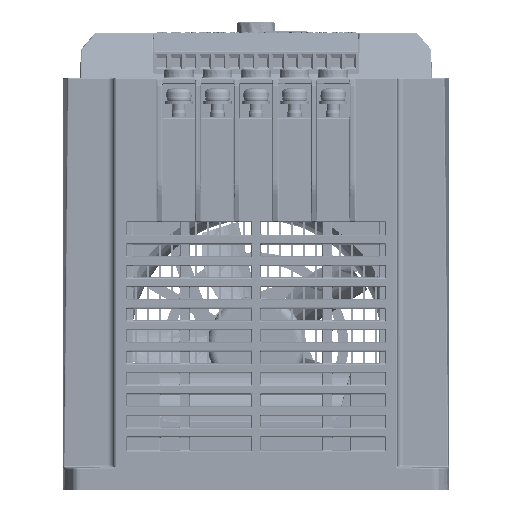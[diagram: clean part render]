
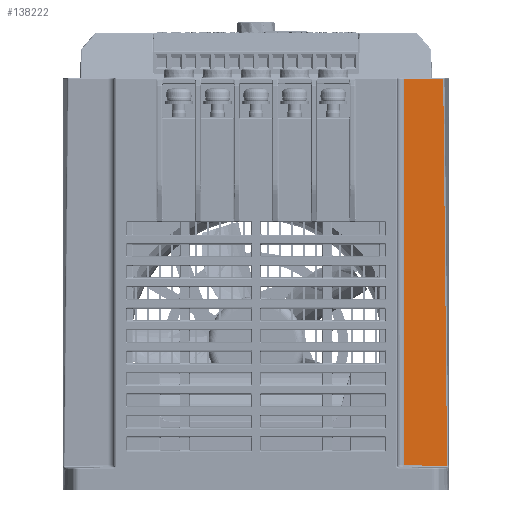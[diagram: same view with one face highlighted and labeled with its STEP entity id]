
A CAD part, front view. The second image highlights one B-rep face of the part: STEP entity #138222.
In plain terms, the highlighted planar face has unit normal (0.018, -1, 0).
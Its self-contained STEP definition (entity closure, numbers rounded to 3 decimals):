
#138222=ADVANCED_FACE('',(#226439),#226441,.T.);
#226439=FACE_BOUND('',#226440,.T.);
#226440=EDGE_LOOP('',(#291147,#291148,#291149,#291150));
#226441=PLANE('',#226442);
#226442=AXIS2_PLACEMENT_3D('',#226443,#226444,#226445);
#226443=CARTESIAN_POINT('',(246.145,110.811,-153.274));
#226444=DIRECTION('',(0.017,-1.,0.));
#226445=DIRECTION('',(1.,0.017,0.));
#291147=ORIENTED_EDGE('',*,*,#344307,.T.);
#291148=ORIENTED_EDGE('',*,*,#344308,.T.);
#291149=ORIENTED_EDGE('',*,*,#344309,.T.);
#291150=ORIENTED_EDGE('',*,*,#344310,.T.);
#344307=EDGE_CURVE('',#512384,#512385,#512386,.T.);
#344308=EDGE_CURVE('',#512385,#512387,#512388,.T.);
#344309=EDGE_CURVE('',#512387,#512389,#512390,.T.);
#344310=EDGE_CURVE('',#512389,#512384,#512391,.T.);
#512384=VERTEX_POINT('',#562306);
#512385=VERTEX_POINT('',#562307);
#512386=LINE('',#562308,#562309);
#512387=VERTEX_POINT('',#562311);
#512388=LINE('',#562312,#562313);
#512389=VERTEX_POINT('',#562315);
#512390=B_SPLINE_CURVE_WITH_KNOTS('',3,
(#562316,#562317,#562318,#562319),
.UNSPECIFIED.,.F.,.F.,
(4,4),
(0.,1.),
.UNSPECIFIED.);
#512391=LINE('',#562320,#562321);
#562306=CARTESIAN_POINT('',(248.076,110.845,-17.574));
#562307=CARTESIAN_POINT('',(248.076,110.845,-152.62));
#562308=CARTESIAN_POINT('',(248.076,110.845,-17.574));
#562309=VECTOR('',#562310,1.);
#562310=DIRECTION('',(0.,0.,-1.));
#562311=CARTESIAN_POINT('',(263.265,111.11,-152.804));
#562312=CARTESIAN_POINT('',(248.076,110.845,-152.62));
#562313=VECTOR('',#562314,1.);
#562314=DIRECTION('',(1.,0.017,-0.012));
#562315=CARTESIAN_POINT('',(261.911,111.086,-17.574));
#562316=CARTESIAN_POINT('',(263.265,111.11,-152.804));
#562317=CARTESIAN_POINT('',(262.834,111.102,-107.727));
#562318=CARTESIAN_POINT('',(262.373,111.094,-62.651));
#562319=CARTESIAN_POINT('',(261.911,111.086,-17.574));
#562320=CARTESIAN_POINT('',(261.911,111.086,-17.574));
#562321=VECTOR('',#562322,1.);
#562322=DIRECTION('',(-1.,-0.017,0.));
